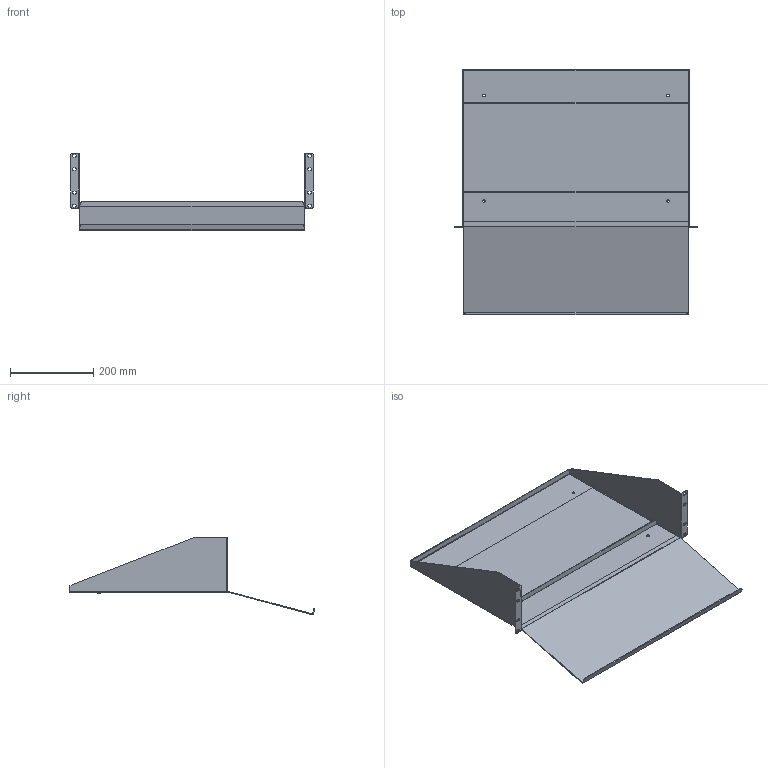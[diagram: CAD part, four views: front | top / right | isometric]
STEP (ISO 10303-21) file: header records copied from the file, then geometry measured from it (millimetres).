
FILE_DESCRIPTION( ( 'Unknown' ), '1' );
FILE_NAME( 'Q:/ACCESSORIES/SHELVES/RK _ RMA/WEB DRAWINGS/STEP/RKBM23.stp', 'Unknown', ( 'Unknown' ), ( 'Unknown' ), 'PSStep 10.1', 'Unknown', ' ' );
FILE_SCHEMA( ( 'AUTOMOTIVE_DESIGN { 1 0 10303 214 1 1 1 1 }' ) );
Length unit declared in the file: millimetre
Products named in the file (3): Assem1; COM49069-1; COM54148-2
Bounding box: 584.35 x 591.54 x 185.9 mm (x, y, z)
Volume: 1509685.1 mm3; surface area: 1666172.2 mm2
Topology: 4 solids, 4 shells, 232 faces, 632 edges, 408 vertices
Faces by surface type: plane 132, cylinder 92, bspline 8
Full cylindrical faces by diameter (mm): 6.35 x8
Entity records: 3975 total; most frequent: CARTESIAN_POINT 931, ORIENTED_EDGE 624, DIRECTION 614, EDGE_CURVE 312, AXIS2_PLACEMENT_3D 207, VERTEX_POINT 204, LINE 200, VECTOR 200
